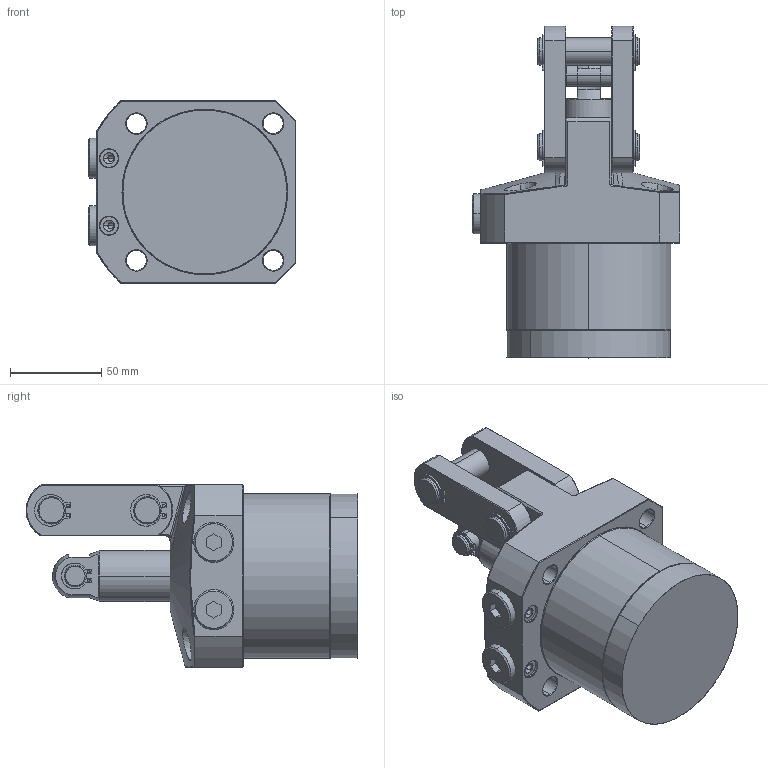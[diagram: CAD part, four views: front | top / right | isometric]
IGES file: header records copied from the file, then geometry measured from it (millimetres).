
Start section: SolidWorks IGES file using analytic representation for surfaces
Global section: file name: D:\abhilash\nijil\cylinder\LKA Series\con v lka\lk900\lk90cr\90CR PT\0402-0902.IGS; native system: SolidWorks 2010; preprocessor: SolidWorks 2010; author: nidheesh; date: 130730.102428; units: millimetre
Bounding box: 114 x 181.95 x 100 mm (x, y, z)
Surface area: 90562.6 mm2 (no closed solid volume)
Topology: 0 solids, 0 shells, 347 faces, 4884 edges, 4883 vertices
Faces by surface type: revolution 198, bspline 149
